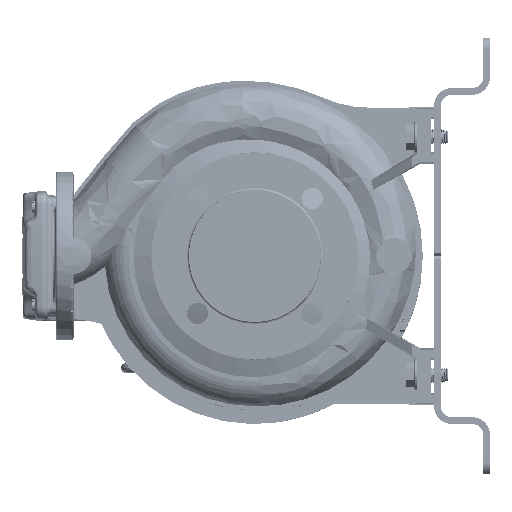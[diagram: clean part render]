
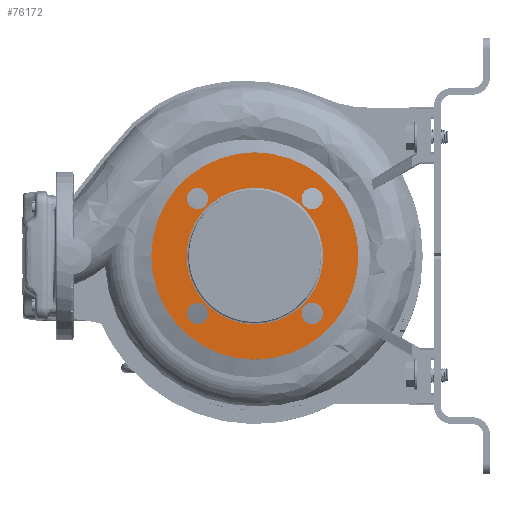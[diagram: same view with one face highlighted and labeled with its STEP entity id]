
A CAD part, left-side view. The second image highlights one B-rep face of the part: STEP entity #76172.
In plain terms, the highlighted planar face has unit normal (-1, 0, 0).
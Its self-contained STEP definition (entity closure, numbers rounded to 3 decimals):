
#1086 = EDGE_LOOP ( 'NONE', ( #178538, #124646 ) ) ;
#3237 = CIRCLE ( 'NONE', #210029, 9.5 ) ;
#3793 = CARTESIAN_POINT ( 'NONE',  ( -146.784, 267.172, 314.638 ) ) ;
#4583 = CARTESIAN_POINT ( 'NONE',  ( -146.784, 216.437, 263.373 ) ) ;
#6522 = VERTEX_POINT ( 'NONE', #110841 ) ;
#13588 = ORIENTED_EDGE ( 'NONE', *, *, #49094, .F. ) ;
#14674 = AXIS2_PLACEMENT_3D ( 'NONE', #195109, #210444, #77039 ) ;
#16061 = AXIS2_PLACEMENT_3D ( 'NONE', #67333, #124626, #221045 ) ;
#16854 = VERTEX_POINT ( 'NONE', #22337 ) ;
#16890 = VERTEX_POINT ( 'NONE', #113119 ) ;
#17738 = VERTEX_POINT ( 'NONE', #173051 ) ;
#21058 = DIRECTION ( 'NONE',  ( -1., 0., 0. ) ) ;
#22337 = CARTESIAN_POINT ( 'NONE',  ( -146.784, 216.437, 365.904 ) ) ;
#23559 = ORIENTED_EDGE ( 'NONE', *, *, #228481, .F. ) ;
#28326 = EDGE_CURVE ( 'NONE', #45199, #6522, #84503, .T. ) ;
#29502 = DIRECTION ( 'NONE',  ( 0., -1., 0. ) ) ;
#30481 = DIRECTION ( 'NONE',  ( -1., 0., 0. ) ) ;
#35301 = AXIS2_PLACEMENT_3D ( 'NONE', #151751, #21058, #229217 ) ;
#39666 = DIRECTION ( 'NONE',  ( -1., 0., 0. ) ) ;
#40926 = PLANE ( 'NONE',  #16061 ) ;
#43442 = FACE_BOUND ( 'NONE', #158951, .T. ) ;
#45158 = CIRCLE ( 'NONE', #174631, 9.5 ) ;
#45199 = VERTEX_POINT ( 'NONE', #73489 ) ;
#47423 = CIRCLE ( 'NONE', #35301, 9.5 ) ;
#49094 = EDGE_CURVE ( 'NONE', #150108, #227243, #3237, .T. ) ;
#49824 = CARTESIAN_POINT ( 'NONE',  ( -146.784, 225.937, 263.373 ) ) ;
#50295 = ORIENTED_EDGE ( 'NONE', *, *, #186045, .F. ) ;
#59795 = FACE_BOUND ( 'NONE', #249923, .T. ) ;
#63375 = DIRECTION ( 'NONE',  ( -1., 0., 0. ) ) ;
#63859 = AXIS2_PLACEMENT_3D ( 'NONE', #192290, #135281, #174487 ) ;
#64637 = DIRECTION ( 'NONE',  ( 0., 0., 1. ) ) ;
#67162 = CARTESIAN_POINT ( 'NONE',  ( -146.784, 123.407, 365.904 ) ) ;
#67333 = CARTESIAN_POINT ( 'NONE',  ( -146.784, 235.672, 314.638 ) ) ;
#68544 = DIRECTION ( 'NONE',  ( -1., 0., 0. ) ) ;
#71161 = CARTESIAN_POINT ( 'NONE',  ( -146.784, 225.937, 365.904 ) ) ;
#71536 = EDGE_CURVE ( 'NONE', #209031, #16854, #45158, .T. ) ;
#73489 = CARTESIAN_POINT ( 'NONE',  ( -146.784, 235.672, 314.638 ) ) ;
#74733 = VERTEX_POINT ( 'NONE', #4583 ) ;
#76172 = ADVANCED_FACE ( 'NONE', ( #138663, #233819, #59795, #137436, #43442, #214784 ), #40926, .F. ) ;
#77039 = DIRECTION ( 'NONE',  ( 0., -1., 0. ) ) ;
#82141 = EDGE_CURVE ( 'NONE', #198502, #239592, #157229, .T. ) ;
#83689 = CARTESIAN_POINT ( 'NONE',  ( -146.784, 225.937, 263.373 ) ) ;
#84359 = DIRECTION ( 'NONE',  ( 0., 1., 0. ) ) ;
#84503 = CIRCLE ( 'NONE', #181873, 61. ) ;
#95027 = CARTESIAN_POINT ( 'NONE',  ( -146.784, 113.907, 263.373 ) ) ;
#98495 = ORIENTED_EDGE ( 'NONE', *, *, #201919, .F. ) ;
#100962 = ORIENTED_EDGE ( 'NONE', *, *, #237324, .F. ) ;
#108206 = DIRECTION ( 'NONE',  ( 0., 0., 1. ) ) ;
#110841 = CARTESIAN_POINT ( 'NONE',  ( -146.784, 113.672, 314.638 ) ) ;
#112322 = AXIS2_PLACEMENT_3D ( 'NONE', #239250, #160552, #84359 ) ;
#113119 = CARTESIAN_POINT ( 'NONE',  ( -146.784, 132.907, 263.373 ) ) ;
#114581 = DIRECTION ( 'NONE',  ( 0., -1., 0. ) ) ;
#115521 = CARTESIAN_POINT ( 'NONE',  ( -146.784, 132.907, 365.904 ) ) ;
#124626 = DIRECTION ( 'NONE',  ( 1., 0., 0. ) ) ;
#124646 = ORIENTED_EDGE ( 'NONE', *, *, #82141, .T. ) ;
#124848 = EDGE_CURVE ( 'NONE', #227243, #150108, #129885, .T. ) ;
#128896 = EDGE_LOOP ( 'NONE', ( #210131, #203721 ) ) ;
#129885 = CIRCLE ( 'NONE', #178360, 9.5 ) ;
#134926 = CARTESIAN_POINT ( 'NONE',  ( -146.784, 225.937, 365.904 ) ) ;
#135236 = CARTESIAN_POINT ( 'NONE',  ( -146.784, 113.907, 365.904 ) ) ;
#135281 = DIRECTION ( 'NONE',  ( -1., 0., 0. ) ) ;
#136125 = DIRECTION ( 'NONE',  ( -1., 0., 0. ) ) ;
#137436 = FACE_BOUND ( 'NONE', #128896, .T. ) ;
#138663 = FACE_BOUND ( 'NONE', #201425, .T. ) ;
#140850 = AXIS2_PLACEMENT_3D ( 'NONE', #83689, #219607, #64637 ) ;
#147459 = DIRECTION ( 'NONE',  ( -1., 0., 0. ) ) ;
#150108 = VERTEX_POINT ( 'NONE', #135236 ) ;
#151751 = CARTESIAN_POINT ( 'NONE',  ( -146.784, 123.407, 263.373 ) ) ;
#157229 = CIRCLE ( 'NONE', #63859, 92.5 ) ;
#158951 = EDGE_LOOP ( 'NONE', ( #98495, #166487 ) ) ;
#160552 = DIRECTION ( 'NONE',  ( -1., 0., 0. ) ) ;
#166487 = ORIENTED_EDGE ( 'NONE', *, *, #28326, .F. ) ;
#173051 = CARTESIAN_POINT ( 'NONE',  ( -146.784, 235.437, 263.373 ) ) ;
#174487 = DIRECTION ( 'NONE',  ( 0., -1., 0. ) ) ;
#174631 = AXIS2_PLACEMENT_3D ( 'NONE', #134926, #39666, #114581 ) ;
#175242 = AXIS2_PLACEMENT_3D ( 'NONE', #49824, #203437, #108206 ) ;
#176572 = DIRECTION ( 'NONE',  ( 0., -1., 0. ) ) ;
#177076 = CARTESIAN_POINT ( 'NONE',  ( -146.784, 82.172, 314.638 ) ) ;
#177704 = DIRECTION ( 'NONE',  ( 0., -1., 0. ) ) ;
#178360 = AXIS2_PLACEMENT_3D ( 'NONE', #199440, #68544, #219761 ) ;
#178538 = ORIENTED_EDGE ( 'NONE', *, *, #228194, .T. ) ;
#179232 = CIRCLE ( 'NONE', #175242, 9.5 ) ;
#181873 = AXIS2_PLACEMENT_3D ( 'NONE', #237344, #63375, #177704 ) ;
#182442 = EDGE_LOOP ( 'NONE', ( #50295, #100962 ) ) ;
#186045 = EDGE_CURVE ( 'NONE', #195915, #16890, #47423, .T. ) ;
#192290 = CARTESIAN_POINT ( 'NONE',  ( -146.784, 174.672, 314.638 ) ) ;
#195109 = CARTESIAN_POINT ( 'NONE',  ( -146.784, 174.672, 314.638 ) ) ;
#195915 = VERTEX_POINT ( 'NONE', #95027 ) ;
#196896 = CARTESIAN_POINT ( 'NONE',  ( -146.784, 174.672, 314.638 ) ) ;
#198502 = VERTEX_POINT ( 'NONE', #3793 ) ;
#199175 = EDGE_CURVE ( 'NONE', #16854, #209031, #209666, .T. ) ;
#199440 = CARTESIAN_POINT ( 'NONE',  ( -146.784, 123.407, 365.904 ) ) ;
#199483 = EDGE_CURVE ( 'NONE', #74733, #17738, #225407, .T. ) ;
#201425 = EDGE_LOOP ( 'NONE', ( #13588, #234273 ) ) ;
#201919 = EDGE_CURVE ( 'NONE', #6522, #45199, #230617, .T. ) ;
#203042 = DIRECTION ( 'NONE',  ( 0., 0., -1. ) ) ;
#203437 = DIRECTION ( 'NONE',  ( -1., 0., 0. ) ) ;
#203721 = ORIENTED_EDGE ( 'NONE', *, *, #71536, .F. ) ;
#209031 = VERTEX_POINT ( 'NONE', #238754 ) ;
#209666 = CIRCLE ( 'NONE', #221804, 9.5 ) ;
#210029 = AXIS2_PLACEMENT_3D ( 'NONE', #67162, #30481, #203042 ) ;
#210131 = ORIENTED_EDGE ( 'NONE', *, *, #199175, .F. ) ;
#210444 = DIRECTION ( 'NONE',  ( -1., 0., 0. ) ) ;
#212534 = ORIENTED_EDGE ( 'NONE', *, *, #199483, .F. ) ;
#214784 = FACE_OUTER_BOUND ( 'NONE', #1086, .T. ) ;
#218480 = AXIS2_PLACEMENT_3D ( 'NONE', #196896, #136125, #176572 ) ;
#219607 = DIRECTION ( 'NONE',  ( -1., 0., 0. ) ) ;
#219761 = DIRECTION ( 'NONE',  ( 0., 0., -1. ) ) ;
#221045 = DIRECTION ( 'NONE',  ( 0., 1., 0. ) ) ;
#221804 = AXIS2_PLACEMENT_3D ( 'NONE', #71161, #147459, #29502 ) ;
#225407 = CIRCLE ( 'NONE', #140850, 9.5 ) ;
#225757 = CIRCLE ( 'NONE', #112322, 9.5 ) ;
#227243 = VERTEX_POINT ( 'NONE', #115521 ) ;
#228194 = EDGE_CURVE ( 'NONE', #239592, #198502, #229504, .T. ) ;
#228481 = EDGE_CURVE ( 'NONE', #17738, #74733, #179232, .T. ) ;
#229217 = DIRECTION ( 'NONE',  ( 0., 1., 0. ) ) ;
#229504 = CIRCLE ( 'NONE', #14674, 92.5 ) ;
#230617 = CIRCLE ( 'NONE', #218480, 61. ) ;
#233819 = FACE_BOUND ( 'NONE', #182442, .T. ) ;
#234273 = ORIENTED_EDGE ( 'NONE', *, *, #124848, .F. ) ;
#237324 = EDGE_CURVE ( 'NONE', #16890, #195915, #225757, .T. ) ;
#237344 = CARTESIAN_POINT ( 'NONE',  ( -146.784, 174.672, 314.638 ) ) ;
#238754 = CARTESIAN_POINT ( 'NONE',  ( -146.784, 235.437, 365.904 ) ) ;
#239250 = CARTESIAN_POINT ( 'NONE',  ( -146.784, 123.407, 263.373 ) ) ;
#239592 = VERTEX_POINT ( 'NONE', #177076 ) ;
#249923 = EDGE_LOOP ( 'NONE', ( #212534, #23559 ) ) ;
